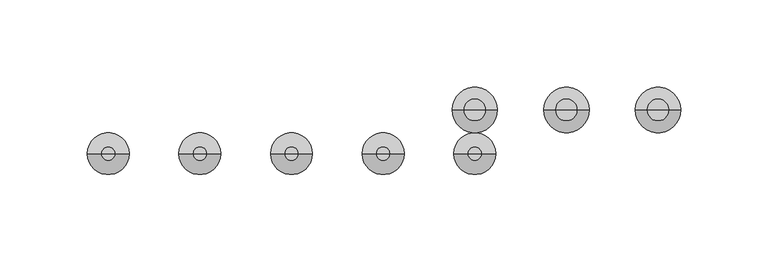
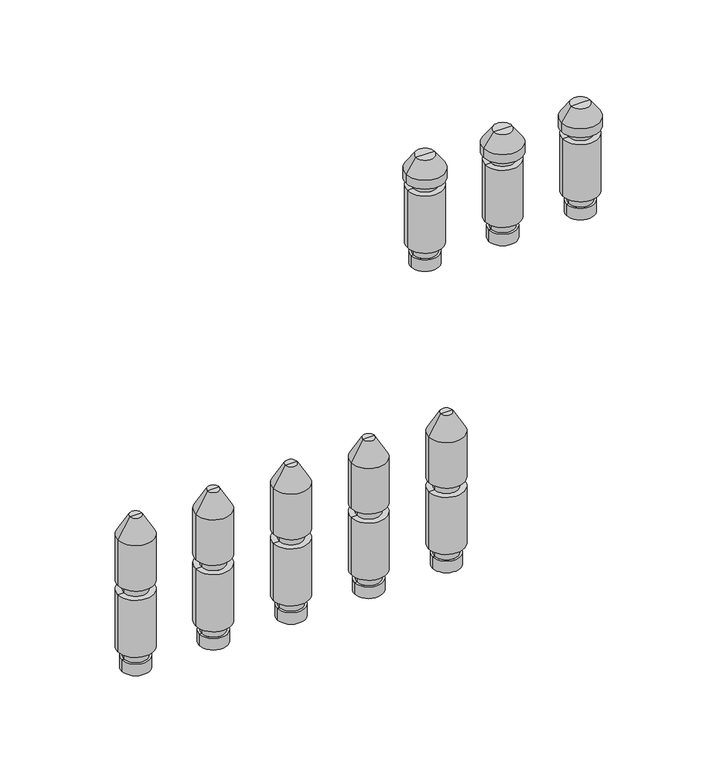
"""IFC4 building model written with IfcOpenShell, lengths in millimetres: valve geometry, PL AT_Manifold_FT-EV : 13 circuits."""

from ifc_helpers import new_model, si_unit, frame, origin, place, context, project, spatial, polyline, circle_curve, source, transform, mapped, element, save
from ifc_brep_helpers import plane_surface, cylinder_surface, revolved_surface, advanced_brep


def valve_9b29a5eb(model_context):
    return source(origin(), model_context, "Body", "AdvancedBrep", [
        advanced_brep(
        [(452.5, 25.0, 164.88733), (471.5, 25.0, 164.88733), (462.0, 25.0, 164.88733), (452.5, 25.0, 172.9630354), (471.5, 25.0, 172.9630354), (454.0, 25.0, 172.9630354), (470.0, 25.0, 172.9630354), (454.0, 25.0, 179.669747), (470.0, 25.0, 179.669747), (450.0, 25.0, 179.669747), (474.0, 25.0, 179.669747), (450.0, 25.0, 220.330253), (474.0, 25.0, 220.330253), (454.0, 25.0, 220.330253), (470.0, 25.0, 220.330253), (454.0, 25.0, 226.0474786), (470.0, 25.0, 226.0474786), (449.0, 25.0, 226.0474786), (475.0, 25.0, 226.0474786), (449.0, 25.0, 232.337955), (475.0, 25.0, 232.337955), (455.6551779, 25.0, 241.842534), (468.3448221, 25.0, 241.842534), (462.0, 25.0, 241.842534)],
        [
            (0, 1, circle_curve(frame((462.0, 25.0, 164.88733), z_axis=(0.0, 0.0, -1.0), x_axis=(1.0, 0.0, 0.0)), 9.5)),
            (1, 2),
            (2, 0),
            (1, 0, circle_curve(frame((462.0, 25.0, 164.88733), z_axis=(0.0, 0.0, -1.0), x_axis=(1.0, 0.0, 0.0)), 9.5)),
            (3, 4, circle_curve(frame((462.0, 25.0, 172.9630354), z_axis=(0.0, 0.0, -1.0), x_axis=(1.0, 0.0, 0.0)), 9.5)),
            (4, 1),
            (0, 3),
            (4, 3, circle_curve(frame((462.0, 25.0, 172.9630354), z_axis=(0.0, 0.0, -1.0), x_axis=(1.0, 0.0, 0.0)), 9.5)),
            (5, 6, circle_curve(frame((462.0, 25.0, 172.9630354), z_axis=(0.0, 0.0, -1.0), x_axis=(1.0, 0.0, 0.0)), 8.0)),
            (6, 4),
            (3, 5),
            (6, 5, circle_curve(frame((462.0, 25.0, 172.9630354), z_axis=(0.0, 0.0, -1.0), x_axis=(1.0, 0.0, 0.0)), 8.0)),
            (7, 8, circle_curve(frame((462.0, 25.0, 179.669747), z_axis=(0.0, 0.0, -1.0), x_axis=(1.0, 0.0, 0.0)), 8.0)),
            (8, 6),
            (5, 7),
            (8, 7, circle_curve(frame((462.0, 25.0, 179.669747), z_axis=(0.0, 0.0, -1.0), x_axis=(1.0, 0.0, 0.0)), 8.0)),
            (9, 10, circle_curve(frame((462.0, 25.0, 179.669747), z_axis=(0.0, 0.0, -1.0), x_axis=(1.0, 0.0, 0.0)), 12.0)),
            (10, 8),
            (7, 9),
            (10, 9, circle_curve(frame((462.0, 25.0, 179.669747), z_axis=(0.0, 0.0, -1.0), x_axis=(1.0, 0.0, 0.0)), 12.0)),
            (11, 12, circle_curve(frame((462.0, 25.0, 220.330253), z_axis=(0.0, 0.0, -1.0), x_axis=(1.0, 0.0, 0.0)), 12.0)),
            (12, 10),
            (9, 11),
            (12, 11, circle_curve(frame((462.0, 25.0, 220.330253), z_axis=(0.0, 0.0, -1.0), x_axis=(1.0, 0.0, 0.0)), 12.0)),
            (13, 14, circle_curve(frame((462.0, 25.0, 220.330253), z_axis=(0.0, 0.0, -1.0), x_axis=(1.0, 0.0, 0.0)), 8.0)),
            (14, 12),
            (11, 13),
            (14, 13, circle_curve(frame((462.0, 25.0, 220.330253), z_axis=(0.0, 0.0, -1.0), x_axis=(1.0, 0.0, 0.0)), 8.0)),
            (15, 16, circle_curve(frame((462.0, 25.0, 226.0474786), z_axis=(0.0, 0.0, -1.0), x_axis=(1.0, 0.0, 0.0)), 8.0)),
            (16, 14),
            (13, 15),
            (16, 15, circle_curve(frame((462.0, 25.0, 226.0474786), z_axis=(0.0, 0.0, -1.0), x_axis=(1.0, 0.0, 0.0)), 8.0)),
            (17, 18, circle_curve(frame((462.0, 25.0, 226.0474786), z_axis=(0.0, 0.0, -1.0), x_axis=(1.0, 0.0, 0.0)), 13.0)),
            (18, 16),
            (15, 17),
            (18, 17, circle_curve(frame((462.0, 25.0, 226.0474786), z_axis=(0.0, 0.0, -1.0), x_axis=(1.0, 0.0, 0.0)), 13.0)),
            (19, 20, circle_curve(frame((462.0, 25.0, 232.337955), z_axis=(0.0, 0.0, -1.0), x_axis=(1.0, 0.0, 0.0)), 13.0)),
            (20, 18),
            (17, 19),
            (20, 19, circle_curve(frame((462.0, 25.0, 232.337955), z_axis=(0.0, 0.0, -1.0), x_axis=(1.0, 0.0, 0.0)), 13.0)),
            (21, 22, circle_curve(frame((462.0, 25.0, 241.842534), z_axis=(0.0, 0.0, -1.0), x_axis=(1.0, 0.0, 0.0)), 6.3448221)),
            (22, 20),
            (19, 21),
            (22, 21, circle_curve(frame((462.0, 25.0, 241.842534), z_axis=(0.0, 0.0, -1.0), x_axis=(1.0, 0.0, 0.0)), 6.3448221)),
            (23, 22),
            (21, 23),
        ],
        [
            plane_surface(frame((462.0, 25.0, 164.88733), z_axis=(0.0, 0.0, -1.0), x_axis=(1.0, 0.0, 0.0))),
            cylinder_surface(frame((462.0, 25.0, 237.7026565), z_axis=(0.0, 0.0, 1.0), x_axis=(1.0, 0.0, 0.0)), 9.5),
            plane_surface(frame((462.0, 25.0, 172.9630354), z_axis=(0.0, 0.0, 1.0), x_axis=(1.0, 0.0, 0.0))),
            cylinder_surface(frame((462.0, 25.0, 237.7026565), z_axis=(0.0, 0.0, 1.0), x_axis=(1.0, 0.0, 0.0)), 8.0),
            plane_surface(frame((462.0, 25.0, 179.669747), z_axis=(0.0, 0.0, -1.0), x_axis=(1.0, 0.0, 0.0))),
            cylinder_surface(frame((462.0, 25.0, 237.7026565), z_axis=(0.0, 0.0, 1.0), x_axis=(1.0, 0.0, 0.0)), 12.0),
            plane_surface(frame((462.0, 25.0, 220.330253), z_axis=(0.0, 0.0, 1.0), x_axis=(1.0, 0.0, 0.0))),
            plane_surface(frame((462.0, 25.0, 226.0474786), z_axis=(0.0, 0.0, -1.0), x_axis=(1.0, 0.0, 0.0))),
            cylinder_surface(frame((462.0, 25.0, 237.7026565), z_axis=(0.0, 0.0, 1.0), x_axis=(1.0, 0.0, 0.0)), 13.0),
            revolved_surface(polyline([(475.0, 25.0, 232.337955), (468.3448221, 25.0, 241.842534)]), (462.0, 25.0, 237.7026565), (0.0, 0.0, 1.0)),
            plane_surface(frame((462.0, 25.0, 241.842534), z_axis=(0.0, 0.0, 1.0), x_axis=(1.0, 0.0, 0.0))),
        ],
        [
            (0, [[1, 2, 3]]),
            (0, [[4, -3, -2]]),
            (1, [[5, 6, -1, 7]]),
            (1, [[8, -7, -4, -6]]),
            (2, [[9, 10, -5, 11]]),
            (2, [[12, -11, -8, -10]]),
            (3, [[13, 14, -9, 15]]),
            (3, [[16, -15, -12, -14]]),
            (4, [[17, 18, -13, 19]]),
            (4, [[20, -19, -16, -18]]),
            (5, [[21, 22, -17, 23]]),
            (5, [[24, -23, -20, -22]]),
            (6, [[25, 26, -21, 27]]),
            (6, [[28, -27, -24, -26]]),
            (3, [[29, 30, -25, 31]]),
            (3, [[32, -31, -28, -30]]),
            (7, [[33, 34, -29, 35]]),
            (7, [[36, -35, -32, -34]]),
            (8, [[37, 38, -33, 39]]),
            (8, [[40, -39, -36, -38]]),
            (9, [[41, 42, -37, 43]]),
            (9, [[44, -43, -40, -42]]),
            (10, [[45, -41, 46]]),
            (10, [[-46, -44, -45]]),
        ],
    ),
        advanced_brep(
        [(400.0, 25.0, 164.88733), (419.0, 25.0, 164.88733), (409.5, 25.0, 164.88733), (400.0, 25.0, 172.9630354), (419.0, 25.0, 172.9630354), (401.5, 25.0, 172.9630354), (417.5, 25.0, 172.9630354), (401.5, 25.0, 179.669747), (417.5, 25.0, 179.669747), (397.5, 25.0, 179.669747), (421.5, 25.0, 179.669747), (397.5, 25.0, 220.330253), (421.5, 25.0, 220.330253), (401.5, 25.0, 220.330253), (417.5, 25.0, 220.330253), (401.5, 25.0, 226.0474786), (417.5, 25.0, 226.0474786), (396.5, 25.0, 226.0474786), (422.5, 25.0, 226.0474786), (396.5, 25.0, 232.337955), (422.5, 25.0, 232.337955), (403.1551779, 25.0, 241.842534), (415.8448221, 25.0, 241.842534), (409.5, 25.0, 241.842534)],
        [
            (0, 1, circle_curve(frame((409.5, 25.0, 164.88733), z_axis=(0.0, 0.0, -1.0), x_axis=(1.0, 0.0, 0.0)), 9.5)),
            (1, 2),
            (2, 0),
            (1, 0, circle_curve(frame((409.5, 25.0, 164.88733), z_axis=(0.0, 0.0, -1.0), x_axis=(1.0, 0.0, 0.0)), 9.5)),
            (3, 4, circle_curve(frame((409.5, 25.0, 172.9630354), z_axis=(0.0, 0.0, -1.0), x_axis=(1.0, 0.0, 0.0)), 9.5)),
            (4, 1),
            (0, 3),
            (4, 3, circle_curve(frame((409.5, 25.0, 172.9630354), z_axis=(0.0, 0.0, -1.0), x_axis=(1.0, 0.0, 0.0)), 9.5)),
            (5, 6, circle_curve(frame((409.5, 25.0, 172.9630354), z_axis=(0.0, 0.0, -1.0), x_axis=(1.0, 0.0, 0.0)), 8.0)),
            (6, 4),
            (3, 5),
            (6, 5, circle_curve(frame((409.5, 25.0, 172.9630354), z_axis=(0.0, 0.0, -1.0), x_axis=(1.0, 0.0, 0.0)), 8.0)),
            (7, 8, circle_curve(frame((409.5, 25.0, 179.669747), z_axis=(0.0, 0.0, -1.0), x_axis=(1.0, 0.0, 0.0)), 8.0)),
            (8, 6),
            (5, 7),
            (8, 7, circle_curve(frame((409.5, 25.0, 179.669747), z_axis=(0.0, 0.0, -1.0), x_axis=(1.0, 0.0, 0.0)), 8.0)),
            (9, 10, circle_curve(frame((409.5, 25.0, 179.669747), z_axis=(0.0, 0.0, -1.0), x_axis=(1.0, 0.0, 0.0)), 12.0)),
            (10, 8),
            (7, 9),
            (10, 9, circle_curve(frame((409.5, 25.0, 179.669747), z_axis=(0.0, 0.0, -1.0), x_axis=(1.0, 0.0, 0.0)), 12.0)),
            (11, 12, circle_curve(frame((409.5, 25.0, 220.330253), z_axis=(0.0, 0.0, -1.0), x_axis=(1.0, 0.0, 0.0)), 12.0)),
            (12, 10),
            (9, 11),
            (12, 11, circle_curve(frame((409.5, 25.0, 220.330253), z_axis=(0.0, 0.0, -1.0), x_axis=(1.0, 0.0, 0.0)), 12.0)),
            (13, 14, circle_curve(frame((409.5, 25.0, 220.330253), z_axis=(0.0, 0.0, -1.0), x_axis=(1.0, 0.0, 0.0)), 8.0)),
            (14, 12),
            (11, 13),
            (14, 13, circle_curve(frame((409.5, 25.0, 220.330253), z_axis=(0.0, 0.0, -1.0), x_axis=(1.0, 0.0, 0.0)), 8.0)),
            (15, 16, circle_curve(frame((409.5, 25.0, 226.0474786), z_axis=(0.0, 0.0, -1.0), x_axis=(1.0, 0.0, 0.0)), 8.0)),
            (16, 14),
            (13, 15),
            (16, 15, circle_curve(frame((409.5, 25.0, 226.0474786), z_axis=(0.0, 0.0, -1.0), x_axis=(1.0, 0.0, 0.0)), 8.0)),
            (17, 18, circle_curve(frame((409.5, 25.0, 226.0474786), z_axis=(0.0, 0.0, -1.0), x_axis=(1.0, 0.0, 0.0)), 13.0)),
            (18, 16),
            (15, 17),
            (18, 17, circle_curve(frame((409.5, 25.0, 226.0474786), z_axis=(0.0, 0.0, -1.0), x_axis=(1.0, 0.0, 0.0)), 13.0)),
            (19, 20, circle_curve(frame((409.5, 25.0, 232.337955), z_axis=(0.0, 0.0, -1.0), x_axis=(1.0, 0.0, 0.0)), 13.0)),
            (20, 18),
            (17, 19),
            (20, 19, circle_curve(frame((409.5, 25.0, 232.337955), z_axis=(0.0, 0.0, -1.0), x_axis=(1.0, 0.0, 0.0)), 13.0)),
            (21, 22, circle_curve(frame((409.5, 25.0, 241.842534), z_axis=(0.0, 0.0, -1.0), x_axis=(1.0, 0.0, 0.0)), 6.3448221)),
            (22, 20),
            (19, 21),
            (22, 21, circle_curve(frame((409.5, 25.0, 241.842534), z_axis=(0.0, 0.0, -1.0), x_axis=(1.0, 0.0, 0.0)), 6.3448221)),
            (23, 22),
            (21, 23),
        ],
        [
            plane_surface(frame((409.5, 25.0, 164.88733), z_axis=(0.0, 0.0, -1.0), x_axis=(1.0, 0.0, 0.0))),
            cylinder_surface(frame((409.5, 25.0, 237.7026565), z_axis=(0.0, 0.0, 1.0), x_axis=(1.0, 0.0, 0.0)), 9.5),
            plane_surface(frame((409.5, 25.0, 172.9630354), z_axis=(0.0, 0.0, 1.0), x_axis=(1.0, 0.0, 0.0))),
            cylinder_surface(frame((409.5, 25.0, 237.7026565), z_axis=(0.0, 0.0, 1.0), x_axis=(1.0, 0.0, 0.0)), 8.0),
            plane_surface(frame((409.5, 25.0, 179.669747), z_axis=(0.0, 0.0, -1.0), x_axis=(1.0, 0.0, 0.0))),
            cylinder_surface(frame((409.5, 25.0, 237.7026565), z_axis=(0.0, 0.0, 1.0), x_axis=(1.0, 0.0, 0.0)), 12.0),
            plane_surface(frame((409.5, 25.0, 220.330253), z_axis=(0.0, 0.0, 1.0), x_axis=(1.0, 0.0, 0.0))),
            plane_surface(frame((409.5, 25.0, 226.0474786), z_axis=(0.0, 0.0, -1.0), x_axis=(1.0, 0.0, 0.0))),
            cylinder_surface(frame((409.5, 25.0, 237.7026565), z_axis=(0.0, 0.0, 1.0), x_axis=(1.0, 0.0, 0.0)), 13.0),
            revolved_surface(polyline([(422.5, 25.0, 232.337955), (415.8448221, 25.0, 241.842534)]), (409.5, 25.0, 237.7026565), (0.0, 0.0, 1.0)),
            plane_surface(frame((409.5, 25.0, 241.842534), z_axis=(0.0, 0.0, 1.0), x_axis=(1.0, 0.0, 0.0))),
        ],
        [
            (0, [[1, 2, 3]]),
            (0, [[4, -3, -2]]),
            (1, [[5, 6, -1, 7]]),
            (1, [[8, -7, -4, -6]]),
            (2, [[9, 10, -5, 11]]),
            (2, [[12, -11, -8, -10]]),
            (3, [[13, 14, -9, 15]]),
            (3, [[16, -15, -12, -14]]),
            (4, [[17, 18, -13, 19]]),
            (4, [[20, -19, -16, -18]]),
            (5, [[21, 22, -17, 23]]),
            (5, [[24, -23, -20, -22]]),
            (6, [[25, 26, -21, 27]]),
            (6, [[28, -27, -24, -26]]),
            (3, [[29, 30, -25, 31]]),
            (3, [[32, -31, -28, -30]]),
            (7, [[33, 34, -29, 35]]),
            (7, [[36, -35, -32, -34]]),
            (8, [[37, 38, -33, 39]]),
            (8, [[40, -39, -36, -38]]),
            (9, [[41, 42, -37, 43]]),
            (9, [[44, -43, -40, -42]]),
            (10, [[45, -41, 46]]),
            (10, [[-46, -44, -45]]),
        ],
    ),
        advanced_brep(
        [(347.5, 0.0, -35.11267), (366.5, 0.0, -35.11267), (357.0, 0.0, -35.11267), (347.5, 0.0, -27.0369646), (366.5, 0.0, -27.0369646), (349.0, 0.0, -27.0369646), (365.0, 0.0, -27.0369646), (349.0, 0.0, -20.330253), (365.0, 0.0, -20.330253), (345.0, 0.0, -20.330253), (369.0, 0.0, -20.330253), (345.0, 0.0, 20.330253), (369.0, 0.0, 20.330253), (349.0, 0.0, 20.330253), (365.0, 0.0, 20.330253), (349.0, 0.0, 27.0474786), (365.0, 0.0, 27.0474786), (345.0, 0.0, 27.0474786), (369.0, 0.0, 27.0474786), (345.0, 0.0, 59.4084325), (369.0, 0.0, 59.4084325), (353.0, 0.0, 73.264839), (361.0, 0.0, 73.264839), (357.0, 0.0, 73.264839)],
        [
            (0, 1, circle_curve(frame((357.0, 0.0, -35.11267), z_axis=(0.0, 0.0, -1.0), x_axis=(1.0, 0.0, 0.0)), 9.5)),
            (1, 2),
            (2, 0),
            (1, 0, circle_curve(frame((357.0, 0.0, -35.11267), z_axis=(0.0, 0.0, -1.0), x_axis=(1.0, 0.0, 0.0)), 9.5)),
            (3, 4, circle_curve(frame((357.0, 0.0, -27.0369646), z_axis=(0.0, 0.0, -1.0), x_axis=(1.0, 0.0, 0.0)), 9.5)),
            (4, 1),
            (0, 3),
            (4, 3, circle_curve(frame((357.0, 0.0, -27.0369646), z_axis=(0.0, 0.0, -1.0), x_axis=(1.0, 0.0, 0.0)), 9.5)),
            (5, 6, circle_curve(frame((357.0, 0.0, -27.0369646), z_axis=(0.0, 0.0, -1.0), x_axis=(1.0, 0.0, 0.0)), 8.0)),
            (6, 4),
            (3, 5),
            (6, 5, circle_curve(frame((357.0, 0.0, -27.0369646), z_axis=(0.0, 0.0, -1.0), x_axis=(1.0, 0.0, 0.0)), 8.0)),
            (7, 8, circle_curve(frame((357.0, 0.0, -20.330253), z_axis=(0.0, 0.0, -1.0), x_axis=(1.0, 0.0, 0.0)), 8.0)),
            (8, 6),
            (5, 7),
            (8, 7, circle_curve(frame((357.0, 0.0, -20.330253), z_axis=(0.0, 0.0, -1.0), x_axis=(1.0, 0.0, 0.0)), 8.0)),
            (9, 10, circle_curve(frame((357.0, 0.0, -20.330253), z_axis=(0.0, 0.0, -1.0), x_axis=(1.0, 0.0, 0.0)), 12.0)),
            (10, 8),
            (7, 9),
            (10, 9, circle_curve(frame((357.0, 0.0, -20.330253), z_axis=(0.0, 0.0, -1.0), x_axis=(1.0, 0.0, 0.0)), 12.0)),
            (11, 12, circle_curve(frame((357.0, 0.0, 20.330253), z_axis=(0.0, 0.0, -1.0), x_axis=(1.0, 0.0, 0.0)), 12.0)),
            (12, 10),
            (9, 11),
            (12, 11, circle_curve(frame((357.0, 0.0, 20.330253), z_axis=(0.0, 0.0, -1.0), x_axis=(1.0, 0.0, 0.0)), 12.0)),
            (13, 14, circle_curve(frame((357.0, 0.0, 20.330253), z_axis=(0.0, 0.0, -1.0), x_axis=(1.0, 0.0, 0.0)), 8.0)),
            (14, 12),
            (11, 13),
            (14, 13, circle_curve(frame((357.0, 0.0, 20.330253), z_axis=(0.0, 0.0, -1.0), x_axis=(1.0, 0.0, 0.0)), 8.0)),
            (15, 16, circle_curve(frame((357.0, 0.0, 27.0474786), z_axis=(0.0, 0.0, -1.0), x_axis=(1.0, 0.0, 0.0)), 8.0)),
            (16, 14),
            (13, 15),
            (16, 15, circle_curve(frame((357.0, 0.0, 27.0474786), z_axis=(0.0, 0.0, -1.0), x_axis=(1.0, 0.0, 0.0)), 8.0)),
            (17, 18, circle_curve(frame((357.0, 0.0, 27.0474786), z_axis=(0.0, 0.0, -1.0), x_axis=(1.0, 0.0, 0.0)), 12.0)),
            (18, 16),
            (15, 17),
            (18, 17, circle_curve(frame((357.0, 0.0, 27.0474786), z_axis=(0.0, 0.0, -1.0), x_axis=(1.0, 0.0, 0.0)), 12.0)),
            (19, 20, circle_curve(frame((357.0, 0.0, 59.4084325), z_axis=(0.0, 0.0, -1.0), x_axis=(1.0, 0.0, 0.0)), 12.0)),
            (20, 18),
            (17, 19),
            (20, 19, circle_curve(frame((357.0, 0.0, 59.4084325), z_axis=(0.0, 0.0, -1.0), x_axis=(1.0, 0.0, 0.0)), 12.0)),
            (21, 22, circle_curve(frame((357.0, 0.0, 73.264839), z_axis=(0.0, 0.0, -1.0), x_axis=(1.0, 0.0, 0.0)), 4.0)),
            (22, 20),
            (19, 21),
            (22, 21, circle_curve(frame((357.0, 0.0, 73.264839), z_axis=(0.0, 0.0, -1.0), x_axis=(1.0, 0.0, 0.0)), 4.0)),
            (23, 22),
            (21, 23),
        ],
        [
            plane_surface(frame((357.0, 0.0, -35.11267), z_axis=(0.0, 0.0, -1.0), x_axis=(1.0, 0.0, 0.0))),
            cylinder_surface(frame((357.0, 0.0, 58.264839), z_axis=(0.0, 0.0, 1.0), x_axis=(1.0, 0.0, 0.0)), 9.5),
            plane_surface(frame((357.0, 0.0, -27.0369646), z_axis=(0.0, 0.0, 1.0), x_axis=(1.0, 0.0, 0.0))),
            cylinder_surface(frame((357.0, 0.0, 58.264839), z_axis=(0.0, 0.0, 1.0), x_axis=(1.0, 0.0, 0.0)), 8.0),
            plane_surface(frame((357.0, 0.0, -20.330253), z_axis=(0.0, 0.0, -1.0), x_axis=(1.0, 0.0, 0.0))),
            cylinder_surface(frame((357.0, 0.0, 58.264839), z_axis=(0.0, 0.0, 1.0), x_axis=(1.0, 0.0, 0.0)), 12.0),
            plane_surface(frame((357.0, 0.0, 20.330253), z_axis=(0.0, 0.0, 1.0), x_axis=(1.0, 0.0, 0.0))),
            plane_surface(frame((357.0, 0.0, 27.0474786), z_axis=(0.0, 0.0, -1.0), x_axis=(1.0, 0.0, 0.0))),
            revolved_surface(polyline([(369.0, 0.0, 59.4084325), (361.0, 0.0, 73.264839)]), (357.0, 0.0, 58.264839), (0.0, 0.0, 1.0)),
            plane_surface(frame((357.0, 0.0, 73.264839), z_axis=(0.0, 0.0, 1.0), x_axis=(1.0, 0.0, 0.0))),
        ],
        [
            (0, [[1, 2, 3]]),
            (0, [[4, -3, -2]]),
            (1, [[5, 6, -1, 7]]),
            (1, [[8, -7, -4, -6]]),
            (2, [[9, 10, -5, 11]]),
            (2, [[12, -11, -8, -10]]),
            (3, [[13, 14, -9, 15]]),
            (3, [[16, -15, -12, -14]]),
            (4, [[17, 18, -13, 19]]),
            (4, [[20, -19, -16, -18]]),
            (5, [[21, 22, -17, 23]]),
            (5, [[24, -23, -20, -22]]),
            (6, [[25, 26, -21, 27]]),
            (6, [[28, -27, -24, -26]]),
            (3, [[29, 30, -25, 31]]),
            (3, [[32, -31, -28, -30]]),
            (7, [[33, 34, -29, 35]]),
            (7, [[36, -35, -32, -34]]),
            (5, [[37, 38, -33, 39]]),
            (5, [[40, -39, -36, -38]]),
            (8, [[41, 42, -37, 43]]),
            (8, [[44, -43, -40, -42]]),
            (9, [[45, -41, 46]]),
            (9, [[-46, -44, -45]]),
        ],
    ),
        advanced_brep(
        [(347.5, 25.0, 164.88733), (366.5, 25.0, 164.88733), (357.0, 25.0, 164.88733), (347.5, 25.0, 172.9630354), (366.5, 25.0, 172.9630354), (349.0, 25.0, 172.9630354), (365.0, 25.0, 172.9630354), (349.0, 25.0, 179.669747), (365.0, 25.0, 179.669747), (345.0, 25.0, 179.669747), (369.0, 25.0, 179.669747), (345.0, 25.0, 220.330253), (369.0, 25.0, 220.330253), (349.0, 25.0, 220.330253), (365.0, 25.0, 220.330253), (349.0, 25.0, 226.0474786), (365.0, 25.0, 226.0474786), (344.0, 25.0, 226.0474786), (370.0, 25.0, 226.0474786), (344.0, 25.0, 232.337955), (370.0, 25.0, 232.337955), (350.6551779, 25.0, 241.842534), (363.3448221, 25.0, 241.842534), (357.0, 25.0, 241.842534)],
        [
            (0, 1, circle_curve(frame((357.0, 25.0, 164.88733), z_axis=(0.0, 0.0, -1.0), x_axis=(1.0, 0.0, 0.0)), 9.5)),
            (1, 2),
            (2, 0),
            (1, 0, circle_curve(frame((357.0, 25.0, 164.88733), z_axis=(0.0, 0.0, -1.0), x_axis=(1.0, 0.0, 0.0)), 9.5)),
            (3, 4, circle_curve(frame((357.0, 25.0, 172.9630354), z_axis=(0.0, 0.0, -1.0), x_axis=(1.0, 0.0, 0.0)), 9.5)),
            (4, 1),
            (0, 3),
            (4, 3, circle_curve(frame((357.0, 25.0, 172.9630354), z_axis=(0.0, 0.0, -1.0), x_axis=(1.0, 0.0, 0.0)), 9.5)),
            (5, 6, circle_curve(frame((357.0, 25.0, 172.9630354), z_axis=(0.0, 0.0, -1.0), x_axis=(1.0, 0.0, 0.0)), 8.0)),
            (6, 4),
            (3, 5),
            (6, 5, circle_curve(frame((357.0, 25.0, 172.9630354), z_axis=(0.0, 0.0, -1.0), x_axis=(1.0, 0.0, 0.0)), 8.0)),
            (7, 8, circle_curve(frame((357.0, 25.0, 179.669747), z_axis=(0.0, 0.0, -1.0), x_axis=(1.0, 0.0, 0.0)), 8.0)),
            (8, 6),
            (5, 7),
            (8, 7, circle_curve(frame((357.0, 25.0, 179.669747), z_axis=(0.0, 0.0, -1.0), x_axis=(1.0, 0.0, 0.0)), 8.0)),
            (9, 10, circle_curve(frame((357.0, 25.0, 179.669747), z_axis=(0.0, 0.0, -1.0), x_axis=(1.0, 0.0, 0.0)), 12.0)),
            (10, 8),
            (7, 9),
            (10, 9, circle_curve(frame((357.0, 25.0, 179.669747), z_axis=(0.0, 0.0, -1.0), x_axis=(1.0, 0.0, 0.0)), 12.0)),
            (11, 12, circle_curve(frame((357.0, 25.0, 220.330253), z_axis=(0.0, 0.0, -1.0), x_axis=(1.0, 0.0, 0.0)), 12.0)),
            (12, 10),
            (9, 11),
            (12, 11, circle_curve(frame((357.0, 25.0, 220.330253), z_axis=(0.0, 0.0, -1.0), x_axis=(1.0, 0.0, 0.0)), 12.0)),
            (13, 14, circle_curve(frame((357.0, 25.0, 220.330253), z_axis=(0.0, 0.0, -1.0), x_axis=(1.0, 0.0, 0.0)), 8.0)),
            (14, 12),
            (11, 13),
            (14, 13, circle_curve(frame((357.0, 25.0, 220.330253), z_axis=(0.0, 0.0, -1.0), x_axis=(1.0, 0.0, 0.0)), 8.0)),
            (15, 16, circle_curve(frame((357.0, 25.0, 226.0474786), z_axis=(0.0, 0.0, -1.0), x_axis=(1.0, 0.0, 0.0)), 8.0)),
            (16, 14),
            (13, 15),
            (16, 15, circle_curve(frame((357.0, 25.0, 226.0474786), z_axis=(0.0, 0.0, -1.0), x_axis=(1.0, 0.0, 0.0)), 8.0)),
            (17, 18, circle_curve(frame((357.0, 25.0, 226.0474786), z_axis=(0.0, 0.0, -1.0), x_axis=(1.0, 0.0, 0.0)), 13.0)),
            (18, 16),
            (15, 17),
            (18, 17, circle_curve(frame((357.0, 25.0, 226.0474786), z_axis=(0.0, 0.0, -1.0), x_axis=(1.0, 0.0, 0.0)), 13.0)),
            (19, 20, circle_curve(frame((357.0, 25.0, 232.337955), z_axis=(0.0, 0.0, -1.0), x_axis=(1.0, 0.0, 0.0)), 13.0)),
            (20, 18),
            (17, 19),
            (20, 19, circle_curve(frame((357.0, 25.0, 232.337955), z_axis=(0.0, 0.0, -1.0), x_axis=(1.0, 0.0, 0.0)), 13.0)),
            (21, 22, circle_curve(frame((357.0, 25.0, 241.842534), z_axis=(0.0, 0.0, -1.0), x_axis=(1.0, 0.0, 0.0)), 6.3448221)),
            (22, 20),
            (19, 21),
            (22, 21, circle_curve(frame((357.0, 25.0, 241.842534), z_axis=(0.0, 0.0, -1.0), x_axis=(1.0, 0.0, 0.0)), 6.3448221)),
            (23, 22),
            (21, 23),
        ],
        [
            plane_surface(frame((357.0, 25.0, 164.88733), z_axis=(0.0, 0.0, -1.0), x_axis=(1.0, 0.0, 0.0))),
            cylinder_surface(frame((357.0, 25.0, 237.7026565), z_axis=(0.0, 0.0, 1.0), x_axis=(1.0, 0.0, 0.0)), 9.5),
            plane_surface(frame((357.0, 25.0, 172.9630354), z_axis=(0.0, 0.0, 1.0), x_axis=(1.0, 0.0, 0.0))),
            cylinder_surface(frame((357.0, 25.0, 237.7026565), z_axis=(0.0, 0.0, 1.0), x_axis=(1.0, 0.0, 0.0)), 8.0),
            plane_surface(frame((357.0, 25.0, 179.669747), z_axis=(0.0, 0.0, -1.0), x_axis=(1.0, 0.0, 0.0))),
            cylinder_surface(frame((357.0, 25.0, 237.7026565), z_axis=(0.0, 0.0, 1.0), x_axis=(1.0, 0.0, 0.0)), 12.0),
            plane_surface(frame((357.0, 25.0, 220.330253), z_axis=(0.0, 0.0, 1.0), x_axis=(1.0, 0.0, 0.0))),
            plane_surface(frame((357.0, 25.0, 226.0474786), z_axis=(0.0, 0.0, -1.0), x_axis=(1.0, 0.0, 0.0))),
            cylinder_surface(frame((357.0, 25.0, 237.7026565), z_axis=(0.0, 0.0, 1.0), x_axis=(1.0, 0.0, 0.0)), 13.0),
            revolved_surface(polyline([(370.0, 25.0, 232.337955), (363.3448221, 25.0, 241.842534)]), (357.0, 25.0, 237.7026565), (0.0, 0.0, 1.0)),
            plane_surface(frame((357.0, 25.0, 241.842534), z_axis=(0.0, 0.0, 1.0), x_axis=(1.0, 0.0, 0.0))),
        ],
        [
            (0, [[1, 2, 3]]),
            (0, [[4, -3, -2]]),
            (1, [[5, 6, -1, 7]]),
            (1, [[8, -7, -4, -6]]),
            (2, [[9, 10, -5, 11]]),
            (2, [[12, -11, -8, -10]]),
            (3, [[13, 14, -9, 15]]),
            (3, [[16, -15, -12, -14]]),
            (4, [[17, 18, -13, 19]]),
            (4, [[20, -19, -16, -18]]),
            (5, [[21, 22, -17, 23]]),
            (5, [[24, -23, -20, -22]]),
            (6, [[25, 26, -21, 27]]),
            (6, [[28, -27, -24, -26]]),
            (3, [[29, 30, -25, 31]]),
            (3, [[32, -31, -28, -30]]),
            (7, [[33, 34, -29, 35]]),
            (7, [[36, -35, -32, -34]]),
            (8, [[37, 38, -33, 39]]),
            (8, [[40, -39, -36, -38]]),
            (9, [[41, 42, -37, 43]]),
            (9, [[44, -43, -40, -42]]),
            (10, [[45, -41, 46]]),
            (10, [[-46, -44, -45]]),
        ],
    ),
        advanced_brep(
        [(295.0, 0.0, -35.11267), (314.0, 0.0, -35.11267), (304.5, 0.0, -35.11267), (295.0, 0.0, -27.0369646), (314.0, 0.0, -27.0369646), (296.5, 0.0, -27.0369646), (312.5, 0.0, -27.0369646), (296.5, 0.0, -20.330253), (312.5, 0.0, -20.330253), (292.5, 0.0, -20.330253), (316.5, 0.0, -20.330253), (292.5, 0.0, 20.330253), (316.5, 0.0, 20.330253), (296.5, 0.0, 20.330253), (312.5, 0.0, 20.330253), (296.5, 0.0, 27.0474786), (312.5, 0.0, 27.0474786), (292.5, 0.0, 27.0474786), (316.5, 0.0, 27.0474786), (292.5, 0.0, 59.4084325), (316.5, 0.0, 59.4084325), (300.5, 0.0, 73.264839), (308.5, 0.0, 73.264839), (304.5, 0.0, 73.264839)],
        [
            (0, 1, circle_curve(frame((304.5, 0.0, -35.11267), z_axis=(0.0, 0.0, -1.0), x_axis=(1.0, 0.0, 0.0)), 9.5)),
            (1, 2),
            (2, 0),
            (1, 0, circle_curve(frame((304.5, 0.0, -35.11267), z_axis=(0.0, 0.0, -1.0), x_axis=(1.0, 0.0, 0.0)), 9.5)),
            (3, 4, circle_curve(frame((304.5, 0.0, -27.0369646), z_axis=(0.0, 0.0, -1.0), x_axis=(1.0, 0.0, 0.0)), 9.5)),
            (4, 1),
            (0, 3),
            (4, 3, circle_curve(frame((304.5, 0.0, -27.0369646), z_axis=(0.0, 0.0, -1.0), x_axis=(1.0, 0.0, 0.0)), 9.5)),
            (5, 6, circle_curve(frame((304.5, 0.0, -27.0369646), z_axis=(0.0, 0.0, -1.0), x_axis=(1.0, 0.0, 0.0)), 8.0)),
            (6, 4),
            (3, 5),
            (6, 5, circle_curve(frame((304.5, 0.0, -27.0369646), z_axis=(0.0, 0.0, -1.0), x_axis=(1.0, 0.0, 0.0)), 8.0)),
            (7, 8, circle_curve(frame((304.5, 0.0, -20.330253), z_axis=(0.0, 0.0, -1.0), x_axis=(1.0, 0.0, 0.0)), 8.0)),
            (8, 6),
            (5, 7),
            (8, 7, circle_curve(frame((304.5, 0.0, -20.330253), z_axis=(0.0, 0.0, -1.0), x_axis=(1.0, 0.0, 0.0)), 8.0)),
            (9, 10, circle_curve(frame((304.5, 0.0, -20.330253), z_axis=(0.0, 0.0, -1.0), x_axis=(1.0, 0.0, 0.0)), 12.0)),
            (10, 8),
            (7, 9),
            (10, 9, circle_curve(frame((304.5, 0.0, -20.330253), z_axis=(0.0, 0.0, -1.0), x_axis=(1.0, 0.0, 0.0)), 12.0)),
            (11, 12, circle_curve(frame((304.5, 0.0, 20.330253), z_axis=(0.0, 0.0, -1.0), x_axis=(1.0, 0.0, 0.0)), 12.0)),
            (12, 10),
            (9, 11),
            (12, 11, circle_curve(frame((304.5, 0.0, 20.330253), z_axis=(0.0, 0.0, -1.0), x_axis=(1.0, 0.0, 0.0)), 12.0)),
            (13, 14, circle_curve(frame((304.5, 0.0, 20.330253), z_axis=(0.0, 0.0, -1.0), x_axis=(1.0, 0.0, 0.0)), 8.0)),
            (14, 12),
            (11, 13),
            (14, 13, circle_curve(frame((304.5, 0.0, 20.330253), z_axis=(0.0, 0.0, -1.0), x_axis=(1.0, 0.0, 0.0)), 8.0)),
            (15, 16, circle_curve(frame((304.5, 0.0, 27.0474786), z_axis=(0.0, 0.0, -1.0), x_axis=(1.0, 0.0, 0.0)), 8.0)),
            (16, 14),
            (13, 15),
            (16, 15, circle_curve(frame((304.5, 0.0, 27.0474786), z_axis=(0.0, 0.0, -1.0), x_axis=(1.0, 0.0, 0.0)), 8.0)),
            (17, 18, circle_curve(frame((304.5, 0.0, 27.0474786), z_axis=(0.0, 0.0, -1.0), x_axis=(1.0, 0.0, 0.0)), 12.0)),
            (18, 16),
            (15, 17),
            (18, 17, circle_curve(frame((304.5, 0.0, 27.0474786), z_axis=(0.0, 0.0, -1.0), x_axis=(1.0, 0.0, 0.0)), 12.0)),
            (19, 20, circle_curve(frame((304.5, 0.0, 59.4084325), z_axis=(0.0, 0.0, -1.0), x_axis=(1.0, 0.0, 0.0)), 12.0)),
            (20, 18),
            (17, 19),
            (20, 19, circle_curve(frame((304.5, 0.0, 59.4084325), z_axis=(0.0, 0.0, -1.0), x_axis=(1.0, 0.0, 0.0)), 12.0)),
            (21, 22, circle_curve(frame((304.5, 0.0, 73.264839), z_axis=(0.0, 0.0, -1.0), x_axis=(1.0, 0.0, 0.0)), 4.0)),
            (22, 20),
            (19, 21),
            (22, 21, circle_curve(frame((304.5, 0.0, 73.264839), z_axis=(0.0, 0.0, -1.0), x_axis=(1.0, 0.0, 0.0)), 4.0)),
            (23, 22),
            (21, 23),
        ],
        [
            plane_surface(frame((304.5, 0.0, -35.11267), z_axis=(0.0, 0.0, -1.0), x_axis=(1.0, 0.0, 0.0))),
            cylinder_surface(frame((304.5, 0.0, 58.264839), z_axis=(0.0, 0.0, 1.0), x_axis=(1.0, 0.0, 0.0)), 9.5),
            plane_surface(frame((304.5, 0.0, -27.0369646), z_axis=(0.0, 0.0, 1.0), x_axis=(1.0, 0.0, 0.0))),
            cylinder_surface(frame((304.5, 0.0, 58.264839), z_axis=(0.0, 0.0, 1.0), x_axis=(1.0, 0.0, 0.0)), 8.0),
            plane_surface(frame((304.5, 0.0, -20.330253), z_axis=(0.0, 0.0, -1.0), x_axis=(1.0, 0.0, 0.0))),
            cylinder_surface(frame((304.5, 0.0, 58.264839), z_axis=(0.0, 0.0, 1.0), x_axis=(1.0, 0.0, 0.0)), 12.0),
            plane_surface(frame((304.5, 0.0, 20.330253), z_axis=(0.0, 0.0, 1.0), x_axis=(1.0, 0.0, 0.0))),
            plane_surface(frame((304.5, 0.0, 27.0474786), z_axis=(0.0, 0.0, -1.0), x_axis=(1.0, 0.0, 0.0))),
            revolved_surface(polyline([(316.5, 0.0, 59.4084325), (308.5, 0.0, 73.264839)]), (304.5, 0.0, 58.264839), (0.0, 0.0, 1.0)),
            plane_surface(frame((304.5, 0.0, 73.264839), z_axis=(0.0, 0.0, 1.0), x_axis=(1.0, 0.0, 0.0))),
        ],
        [
            (0, [[1, 2, 3]]),
            (0, [[4, -3, -2]]),
            (1, [[5, 6, -1, 7]]),
            (1, [[8, -7, -4, -6]]),
            (2, [[9, 10, -5, 11]]),
            (2, [[12, -11, -8, -10]]),
            (3, [[13, 14, -9, 15]]),
            (3, [[16, -15, -12, -14]]),
            (4, [[17, 18, -13, 19]]),
            (4, [[20, -19, -16, -18]]),
            (5, [[21, 22, -17, 23]]),
            (5, [[24, -23, -20, -22]]),
            (6, [[25, 26, -21, 27]]),
            (6, [[28, -27, -24, -26]]),
            (3, [[29, 30, -25, 31]]),
            (3, [[32, -31, -28, -30]]),
            (7, [[33, 34, -29, 35]]),
            (7, [[36, -35, -32, -34]]),
            (5, [[37, 38, -33, 39]]),
            (5, [[40, -39, -36, -38]]),
            (8, [[41, 42, -37, 43]]),
            (8, [[44, -43, -40, -42]]),
            (9, [[45, -41, 46]]),
            (9, [[-46, -44, -45]]),
        ],
    ),
        advanced_brep(
        [(242.5, 0.0, -35.11267), (261.5, 0.0, -35.11267), (252.0, 0.0, -35.11267), (242.5, 0.0, -27.0369646), (261.5, 0.0, -27.0369646), (244.0, 0.0, -27.0369646), (260.0, 0.0, -27.0369646), (244.0, 0.0, -20.330253), (260.0, 0.0, -20.330253), (240.0, 0.0, -20.330253), (264.0, 0.0, -20.330253), (240.0, 0.0, 20.330253), (264.0, 0.0, 20.330253), (244.0, 0.0, 20.330253), (260.0, 0.0, 20.330253), (244.0, 0.0, 27.0474786), (260.0, 0.0, 27.0474786), (240.0, 0.0, 27.0474786), (264.0, 0.0, 27.0474786), (240.0, 0.0, 59.4084325), (264.0, 0.0, 59.4084325), (248.0, 0.0, 73.264839), (256.0, 0.0, 73.264839), (252.0, 0.0, 73.264839)],
        [
            (0, 1, circle_curve(frame((252.0, 0.0, -35.11267), z_axis=(0.0, 0.0, -1.0), x_axis=(1.0, 0.0, 0.0)), 9.5)),
            (1, 2),
            (2, 0),
            (1, 0, circle_curve(frame((252.0, 0.0, -35.11267), z_axis=(0.0, 0.0, -1.0), x_axis=(1.0, 0.0, 0.0)), 9.5)),
            (3, 4, circle_curve(frame((252.0, 0.0, -27.0369646), z_axis=(0.0, 0.0, -1.0), x_axis=(1.0, 0.0, 0.0)), 9.5)),
            (4, 1),
            (0, 3),
            (4, 3, circle_curve(frame((252.0, 0.0, -27.0369646), z_axis=(0.0, 0.0, -1.0), x_axis=(1.0, 0.0, 0.0)), 9.5)),
            (5, 6, circle_curve(frame((252.0, 0.0, -27.0369646), z_axis=(0.0, 0.0, -1.0), x_axis=(1.0, 0.0, 0.0)), 8.0)),
            (6, 4),
            (3, 5),
            (6, 5, circle_curve(frame((252.0, 0.0, -27.0369646), z_axis=(0.0, 0.0, -1.0), x_axis=(1.0, 0.0, 0.0)), 8.0)),
            (7, 8, circle_curve(frame((252.0, 0.0, -20.330253), z_axis=(0.0, 0.0, -1.0), x_axis=(1.0, 0.0, 0.0)), 8.0)),
            (8, 6),
            (5, 7),
            (8, 7, circle_curve(frame((252.0, 0.0, -20.330253), z_axis=(0.0, 0.0, -1.0), x_axis=(1.0, 0.0, 0.0)), 8.0)),
            (9, 10, circle_curve(frame((252.0, 0.0, -20.330253), z_axis=(0.0, 0.0, -1.0), x_axis=(1.0, 0.0, 0.0)), 12.0)),
            (10, 8),
            (7, 9),
            (10, 9, circle_curve(frame((252.0, 0.0, -20.330253), z_axis=(0.0, 0.0, -1.0), x_axis=(1.0, 0.0, 0.0)), 12.0)),
            (11, 12, circle_curve(frame((252.0, 0.0, 20.330253), z_axis=(0.0, 0.0, -1.0), x_axis=(1.0, 0.0, 0.0)), 12.0)),
            (12, 10),
            (9, 11),
            (12, 11, circle_curve(frame((252.0, 0.0, 20.330253), z_axis=(0.0, 0.0, -1.0), x_axis=(1.0, 0.0, 0.0)), 12.0)),
            (13, 14, circle_curve(frame((252.0, 0.0, 20.330253), z_axis=(0.0, 0.0, -1.0), x_axis=(1.0, 0.0, 0.0)), 8.0)),
            (14, 12),
            (11, 13),
            (14, 13, circle_curve(frame((252.0, 0.0, 20.330253), z_axis=(0.0, 0.0, -1.0), x_axis=(1.0, 0.0, 0.0)), 8.0)),
            (15, 16, circle_curve(frame((252.0, 0.0, 27.0474786), z_axis=(0.0, 0.0, -1.0), x_axis=(1.0, 0.0, 0.0)), 8.0)),
            (16, 14),
            (13, 15),
            (16, 15, circle_curve(frame((252.0, 0.0, 27.0474786), z_axis=(0.0, 0.0, -1.0), x_axis=(1.0, 0.0, 0.0)), 8.0)),
            (17, 18, circle_curve(frame((252.0, 0.0, 27.0474786), z_axis=(0.0, 0.0, -1.0), x_axis=(1.0, 0.0, 0.0)), 12.0)),
            (18, 16),
            (15, 17),
            (18, 17, circle_curve(frame((252.0, 0.0, 27.0474786), z_axis=(0.0, 0.0, -1.0), x_axis=(1.0, 0.0, 0.0)), 12.0)),
            (19, 20, circle_curve(frame((252.0, 0.0, 59.4084325), z_axis=(0.0, 0.0, -1.0), x_axis=(1.0, 0.0, 0.0)), 12.0)),
            (20, 18),
            (17, 19),
            (20, 19, circle_curve(frame((252.0, 0.0, 59.4084325), z_axis=(0.0, 0.0, -1.0), x_axis=(1.0, 0.0, 0.0)), 12.0)),
            (21, 22, circle_curve(frame((252.0, 0.0, 73.264839), z_axis=(0.0, 0.0, -1.0), x_axis=(1.0, 0.0, 0.0)), 4.0)),
            (22, 20),
            (19, 21),
            (22, 21, circle_curve(frame((252.0, 0.0, 73.264839), z_axis=(0.0, 0.0, -1.0), x_axis=(1.0, 0.0, 0.0)), 4.0)),
            (23, 22),
            (21, 23),
        ],
        [
            plane_surface(frame((252.0, 0.0, -35.11267), z_axis=(0.0, 0.0, -1.0), x_axis=(1.0, 0.0, 0.0))),
            cylinder_surface(frame((252.0, 0.0, 58.264839), z_axis=(0.0, 0.0, 1.0), x_axis=(1.0, 0.0, 0.0)), 9.5),
            plane_surface(frame((252.0, 0.0, -27.0369646), z_axis=(0.0, 0.0, 1.0), x_axis=(1.0, 0.0, 0.0))),
            cylinder_surface(frame((252.0, 0.0, 58.264839), z_axis=(0.0, 0.0, 1.0), x_axis=(1.0, 0.0, 0.0)), 8.0),
            plane_surface(frame((252.0, 0.0, -20.330253), z_axis=(0.0, 0.0, -1.0), x_axis=(1.0, 0.0, 0.0))),
            cylinder_surface(frame((252.0, 0.0, 58.264839), z_axis=(0.0, 0.0, 1.0), x_axis=(1.0, 0.0, 0.0)), 12.0),
            plane_surface(frame((252.0, 0.0, 20.330253), z_axis=(0.0, 0.0, 1.0), x_axis=(1.0, 0.0, 0.0))),
            plane_surface(frame((252.0, 0.0, 27.0474786), z_axis=(0.0, 0.0, -1.0), x_axis=(1.0, 0.0, 0.0))),
            revolved_surface(polyline([(264.0, 0.0, 59.4084325), (256.0, 0.0, 73.264839)]), (252.0, 0.0, 58.264839), (0.0, 0.0, 1.0)),
            plane_surface(frame((252.0, 0.0, 73.264839), z_axis=(0.0, 0.0, 1.0), x_axis=(1.0, 0.0, 0.0))),
        ],
        [
            (0, [[1, 2, 3]]),
            (0, [[4, -3, -2]]),
            (1, [[5, 6, -1, 7]]),
            (1, [[8, -7, -4, -6]]),
            (2, [[9, 10, -5, 11]]),
            (2, [[12, -11, -8, -10]]),
            (3, [[13, 14, -9, 15]]),
            (3, [[16, -15, -12, -14]]),
            (4, [[17, 18, -13, 19]]),
            (4, [[20, -19, -16, -18]]),
            (5, [[21, 22, -17, 23]]),
            (5, [[24, -23, -20, -22]]),
            (6, [[25, 26, -21, 27]]),
            (6, [[28, -27, -24, -26]]),
            (3, [[29, 30, -25, 31]]),
            (3, [[32, -31, -28, -30]]),
            (7, [[33, 34, -29, 35]]),
            (7, [[36, -35, -32, -34]]),
            (5, [[37, 38, -33, 39]]),
            (5, [[40, -39, -36, -38]]),
            (8, [[41, 42, -37, 43]]),
            (8, [[44, -43, -40, -42]]),
            (9, [[45, -41, 46]]),
            (9, [[-46, -44, -45]]),
        ],
    ),
        advanced_brep(
        [(190.0, 0.0, -35.11267), (209.0, 0.0, -35.11267), (199.5, 0.0, -35.11267), (190.0, 0.0, -27.0369646), (209.0, 0.0, -27.0369646), (191.5, 0.0, -27.0369646), (207.5, 0.0, -27.0369646), (191.5, 0.0, -20.330253), (207.5, 0.0, -20.330253), (187.5, 0.0, -20.330253), (211.5, 0.0, -20.330253), (187.5, 0.0, 20.330253), (211.5, 0.0, 20.330253), (191.5, 0.0, 20.330253), (207.5, 0.0, 20.330253), (191.5, 0.0, 27.0474786), (207.5, 0.0, 27.0474786), (187.5, 0.0, 27.0474786), (211.5, 0.0, 27.0474786), (187.5, 0.0, 59.4084325), (211.5, 0.0, 59.4084325), (195.5, 0.0, 73.264839), (203.5, 0.0, 73.264839), (199.5, 0.0, 73.264839)],
        [
            (0, 1, circle_curve(frame((199.5, 0.0, -35.11267), z_axis=(0.0, 0.0, -1.0), x_axis=(1.0, 0.0, 0.0)), 9.5)),
            (1, 2),
            (2, 0),
            (1, 0, circle_curve(frame((199.5, 0.0, -35.11267), z_axis=(0.0, 0.0, -1.0), x_axis=(1.0, 0.0, 0.0)), 9.5)),
            (3, 4, circle_curve(frame((199.5, 0.0, -27.0369646), z_axis=(0.0, 0.0, -1.0), x_axis=(1.0, 0.0, 0.0)), 9.5)),
            (4, 1),
            (0, 3),
            (4, 3, circle_curve(frame((199.5, 0.0, -27.0369646), z_axis=(0.0, 0.0, -1.0), x_axis=(1.0, 0.0, 0.0)), 9.5)),
            (5, 6, circle_curve(frame((199.5, 0.0, -27.0369646), z_axis=(0.0, 0.0, -1.0), x_axis=(1.0, 0.0, 0.0)), 8.0)),
            (6, 4),
            (3, 5),
            (6, 5, circle_curve(frame((199.5, 0.0, -27.0369646), z_axis=(0.0, 0.0, -1.0), x_axis=(1.0, 0.0, 0.0)), 8.0)),
            (7, 8, circle_curve(frame((199.5, 0.0, -20.330253), z_axis=(0.0, 0.0, -1.0), x_axis=(1.0, 0.0, 0.0)), 8.0)),
            (8, 6),
            (5, 7),
            (8, 7, circle_curve(frame((199.5, 0.0, -20.330253), z_axis=(0.0, 0.0, -1.0), x_axis=(1.0, 0.0, 0.0)), 8.0)),
            (9, 10, circle_curve(frame((199.5, 0.0, -20.330253), z_axis=(0.0, 0.0, -1.0), x_axis=(1.0, 0.0, 0.0)), 12.0)),
            (10, 8),
            (7, 9),
            (10, 9, circle_curve(frame((199.5, 0.0, -20.330253), z_axis=(0.0, 0.0, -1.0), x_axis=(1.0, 0.0, 0.0)), 12.0)),
            (11, 12, circle_curve(frame((199.5, 0.0, 20.330253), z_axis=(0.0, 0.0, -1.0), x_axis=(1.0, 0.0, 0.0)), 12.0)),
            (12, 10),
            (9, 11),
            (12, 11, circle_curve(frame((199.5, 0.0, 20.330253), z_axis=(0.0, 0.0, -1.0), x_axis=(1.0, 0.0, 0.0)), 12.0)),
            (13, 14, circle_curve(frame((199.5, 0.0, 20.330253), z_axis=(0.0, 0.0, -1.0), x_axis=(1.0, 0.0, 0.0)), 8.0)),
            (14, 12),
            (11, 13),
            (14, 13, circle_curve(frame((199.5, 0.0, 20.330253), z_axis=(0.0, 0.0, -1.0), x_axis=(1.0, 0.0, 0.0)), 8.0)),
            (15, 16, circle_curve(frame((199.5, 0.0, 27.0474786), z_axis=(0.0, 0.0, -1.0), x_axis=(1.0, 0.0, 0.0)), 8.0)),
            (16, 14),
            (13, 15),
            (16, 15, circle_curve(frame((199.5, 0.0, 27.0474786), z_axis=(0.0, 0.0, -1.0), x_axis=(1.0, 0.0, 0.0)), 8.0)),
            (17, 18, circle_curve(frame((199.5, 0.0, 27.0474786), z_axis=(0.0, 0.0, -1.0), x_axis=(1.0, 0.0, 0.0)), 12.0)),
            (18, 16),
            (15, 17),
            (18, 17, circle_curve(frame((199.5, 0.0, 27.0474786), z_axis=(0.0, 0.0, -1.0), x_axis=(1.0, 0.0, 0.0)), 12.0)),
            (19, 20, circle_curve(frame((199.5, 0.0, 59.4084325), z_axis=(0.0, 0.0, -1.0), x_axis=(1.0, 0.0, 0.0)), 12.0)),
            (20, 18),
            (17, 19),
            (20, 19, circle_curve(frame((199.5, 0.0, 59.4084325), z_axis=(0.0, 0.0, -1.0), x_axis=(1.0, 0.0, 0.0)), 12.0)),
            (21, 22, circle_curve(frame((199.5, 0.0, 73.264839), z_axis=(0.0, 0.0, -1.0), x_axis=(1.0, 0.0, 0.0)), 4.0)),
            (22, 20),
            (19, 21),
            (22, 21, circle_curve(frame((199.5, 0.0, 73.264839), z_axis=(0.0, 0.0, -1.0), x_axis=(1.0, 0.0, 0.0)), 4.0)),
            (23, 22),
            (21, 23),
        ],
        [
            plane_surface(frame((199.5, 0.0, -35.11267), z_axis=(0.0, 0.0, -1.0), x_axis=(1.0, 0.0, 0.0))),
            cylinder_surface(frame((199.5, 0.0, 58.264839), z_axis=(0.0, 0.0, 1.0), x_axis=(1.0, 0.0, 0.0)), 9.5),
            plane_surface(frame((199.5, 0.0, -27.0369646), z_axis=(0.0, 0.0, 1.0), x_axis=(1.0, 0.0, 0.0))),
            cylinder_surface(frame((199.5, 0.0, 58.264839), z_axis=(0.0, 0.0, 1.0), x_axis=(1.0, 0.0, 0.0)), 8.0),
            plane_surface(frame((199.5, 0.0, -20.330253), z_axis=(0.0, 0.0, -1.0), x_axis=(1.0, 0.0, 0.0))),
            cylinder_surface(frame((199.5, 0.0, 58.264839), z_axis=(0.0, 0.0, 1.0), x_axis=(1.0, 0.0, 0.0)), 12.0),
            plane_surface(frame((199.5, 0.0, 20.330253), z_axis=(0.0, 0.0, 1.0), x_axis=(1.0, 0.0, 0.0))),
            plane_surface(frame((199.5, 0.0, 27.0474786), z_axis=(0.0, 0.0, -1.0), x_axis=(1.0, 0.0, 0.0))),
            revolved_surface(polyline([(211.5, 0.0, 59.4084325), (203.5, 0.0, 73.264839)]), (199.5, 0.0, 58.264839), (0.0, 0.0, 1.0)),
            plane_surface(frame((199.5, 0.0, 73.264839), z_axis=(0.0, 0.0, 1.0), x_axis=(1.0, 0.0, 0.0))),
        ],
        [
            (0, [[1, 2, 3]]),
            (0, [[4, -3, -2]]),
            (1, [[5, 6, -1, 7]]),
            (1, [[8, -7, -4, -6]]),
            (2, [[9, 10, -5, 11]]),
            (2, [[12, -11, -8, -10]]),
            (3, [[13, 14, -9, 15]]),
            (3, [[16, -15, -12, -14]]),
            (4, [[17, 18, -13, 19]]),
            (4, [[20, -19, -16, -18]]),
            (5, [[21, 22, -17, 23]]),
            (5, [[24, -23, -20, -22]]),
            (6, [[25, 26, -21, 27]]),
            (6, [[28, -27, -24, -26]]),
            (3, [[29, 30, -25, 31]]),
            (3, [[32, -31, -28, -30]]),
            (7, [[33, 34, -29, 35]]),
            (7, [[36, -35, -32, -34]]),
            (5, [[37, 38, -33, 39]]),
            (5, [[40, -39, -36, -38]]),
            (8, [[41, 42, -37, 43]]),
            (8, [[44, -43, -40, -42]]),
            (9, [[45, -41, 46]]),
            (9, [[-46, -44, -45]]),
        ],
    ),
        advanced_brep(
        [(137.5, 0.0, -35.11267), (156.5, 0.0, -35.11267), (147.0, 0.0, -35.11267), (137.5, 0.0, -27.0369646), (156.5, 0.0, -27.0369646), (139.0, 0.0, -27.0369646), (155.0, 0.0, -27.0369646), (139.0, 0.0, -20.330253), (155.0, 0.0, -20.330253), (135.0, 0.0, -20.330253), (159.0, 0.0, -20.330253), (135.0, 0.0, 20.330253), (159.0, 0.0, 20.330253), (139.0, 0.0, 20.330253), (155.0, 0.0, 20.330253), (139.0, 0.0, 27.0474786), (155.0, 0.0, 27.0474786), (135.0, 0.0, 27.0474786), (159.0, 0.0, 27.0474786), (135.0, 0.0, 59.4084325), (159.0, 0.0, 59.4084325), (143.0, 0.0, 73.264839), (151.0, 0.0, 73.264839), (147.0, 0.0, 73.264839)],
        [
            (0, 1, circle_curve(frame((147.0, 0.0, -35.11267), z_axis=(0.0, 0.0, -1.0), x_axis=(1.0, 0.0, 0.0)), 9.5)),
            (1, 2),
            (2, 0),
            (1, 0, circle_curve(frame((147.0, 0.0, -35.11267), z_axis=(0.0, 0.0, -1.0), x_axis=(1.0, 0.0, 0.0)), 9.5)),
            (3, 4, circle_curve(frame((147.0, 0.0, -27.0369646), z_axis=(0.0, 0.0, -1.0), x_axis=(1.0, 0.0, 0.0)), 9.5)),
            (4, 1),
            (0, 3),
            (4, 3, circle_curve(frame((147.0, 0.0, -27.0369646), z_axis=(0.0, 0.0, -1.0), x_axis=(1.0, 0.0, 0.0)), 9.5)),
            (5, 6, circle_curve(frame((147.0, 0.0, -27.0369646), z_axis=(0.0, 0.0, -1.0), x_axis=(1.0, 0.0, 0.0)), 8.0)),
            (6, 4),
            (3, 5),
            (6, 5, circle_curve(frame((147.0, 0.0, -27.0369646), z_axis=(0.0, 0.0, -1.0), x_axis=(1.0, 0.0, 0.0)), 8.0)),
            (7, 8, circle_curve(frame((147.0, 0.0, -20.330253), z_axis=(0.0, 0.0, -1.0), x_axis=(1.0, 0.0, 0.0)), 8.0)),
            (8, 6),
            (5, 7),
            (8, 7, circle_curve(frame((147.0, 0.0, -20.330253), z_axis=(0.0, 0.0, -1.0), x_axis=(1.0, 0.0, 0.0)), 8.0)),
            (9, 10, circle_curve(frame((147.0, 0.0, -20.330253), z_axis=(0.0, 0.0, -1.0), x_axis=(1.0, 0.0, 0.0)), 12.0)),
            (10, 8),
            (7, 9),
            (10, 9, circle_curve(frame((147.0, 0.0, -20.330253), z_axis=(0.0, 0.0, -1.0), x_axis=(1.0, 0.0, 0.0)), 12.0)),
            (11, 12, circle_curve(frame((147.0, 0.0, 20.330253), z_axis=(0.0, 0.0, -1.0), x_axis=(1.0, 0.0, 0.0)), 12.0)),
            (12, 10),
            (9, 11),
            (12, 11, circle_curve(frame((147.0, 0.0, 20.330253), z_axis=(0.0, 0.0, -1.0), x_axis=(1.0, 0.0, 0.0)), 12.0)),
            (13, 14, circle_curve(frame((147.0, 0.0, 20.330253), z_axis=(0.0, 0.0, -1.0), x_axis=(1.0, 0.0, 0.0)), 8.0)),
            (14, 12),
            (11, 13),
            (14, 13, circle_curve(frame((147.0, 0.0, 20.330253), z_axis=(0.0, 0.0, -1.0), x_axis=(1.0, 0.0, 0.0)), 8.0)),
            (15, 16, circle_curve(frame((147.0, 0.0, 27.0474786), z_axis=(0.0, 0.0, -1.0), x_axis=(1.0, 0.0, 0.0)), 8.0)),
            (16, 14),
            (13, 15),
            (16, 15, circle_curve(frame((147.0, 0.0, 27.0474786), z_axis=(0.0, 0.0, -1.0), x_axis=(1.0, 0.0, 0.0)), 8.0)),
            (17, 18, circle_curve(frame((147.0, 0.0, 27.0474786), z_axis=(0.0, 0.0, -1.0), x_axis=(1.0, 0.0, 0.0)), 12.0)),
            (18, 16),
            (15, 17),
            (18, 17, circle_curve(frame((147.0, 0.0, 27.0474786), z_axis=(0.0, 0.0, -1.0), x_axis=(1.0, 0.0, 0.0)), 12.0)),
            (19, 20, circle_curve(frame((147.0, 0.0, 59.4084325), z_axis=(0.0, 0.0, -1.0), x_axis=(1.0, 0.0, 0.0)), 12.0)),
            (20, 18),
            (17, 19),
            (20, 19, circle_curve(frame((147.0, 0.0, 59.4084325), z_axis=(0.0, 0.0, -1.0), x_axis=(1.0, 0.0, 0.0)), 12.0)),
            (21, 22, circle_curve(frame((147.0, 0.0, 73.264839), z_axis=(0.0, 0.0, -1.0), x_axis=(1.0, 0.0, 0.0)), 4.0)),
            (22, 20),
            (19, 21),
            (22, 21, circle_curve(frame((147.0, 0.0, 73.264839), z_axis=(0.0, 0.0, -1.0), x_axis=(1.0, 0.0, 0.0)), 4.0)),
            (23, 22),
            (21, 23),
        ],
        [
            plane_surface(frame((147.0, 0.0, -35.11267), z_axis=(0.0, 0.0, -1.0), x_axis=(1.0, 0.0, 0.0))),
            cylinder_surface(frame((147.0, 0.0, 58.264839), z_axis=(0.0, 0.0, 1.0), x_axis=(1.0, 0.0, 0.0)), 9.5),
            plane_surface(frame((147.0, 0.0, -27.0369646), z_axis=(0.0, 0.0, 1.0), x_axis=(1.0, 0.0, 0.0))),
            cylinder_surface(frame((147.0, 0.0, 58.264839), z_axis=(0.0, 0.0, 1.0), x_axis=(1.0, 0.0, 0.0)), 8.0),
            plane_surface(frame((147.0, 0.0, -20.330253), z_axis=(0.0, 0.0, -1.0), x_axis=(1.0, 0.0, 0.0))),
            cylinder_surface(frame((147.0, 0.0, 58.264839), z_axis=(0.0, 0.0, 1.0), x_axis=(1.0, 0.0, 0.0)), 12.0),
            plane_surface(frame((147.0, 0.0, 20.330253), z_axis=(0.0, 0.0, 1.0), x_axis=(1.0, 0.0, 0.0))),
            plane_surface(frame((147.0, 0.0, 27.0474786), z_axis=(0.0, 0.0, -1.0), x_axis=(1.0, 0.0, 0.0))),
            revolved_surface(polyline([(159.0, 0.0, 59.4084325), (151.0, 0.0, 73.264839)]), (147.0, 0.0, 58.264839), (0.0, 0.0, 1.0)),
            plane_surface(frame((147.0, 0.0, 73.264839), z_axis=(0.0, 0.0, 1.0), x_axis=(1.0, 0.0, 0.0))),
        ],
        [
            (0, [[1, 2, 3]]),
            (0, [[4, -3, -2]]),
            (1, [[5, 6, -1, 7]]),
            (1, [[8, -7, -4, -6]]),
            (2, [[9, 10, -5, 11]]),
            (2, [[12, -11, -8, -10]]),
            (3, [[13, 14, -9, 15]]),
            (3, [[16, -15, -12, -14]]),
            (4, [[17, 18, -13, 19]]),
            (4, [[20, -19, -16, -18]]),
            (5, [[21, 22, -17, 23]]),
            (5, [[24, -23, -20, -22]]),
            (6, [[25, 26, -21, 27]]),
            (6, [[28, -27, -24, -26]]),
            (3, [[29, 30, -25, 31]]),
            (3, [[32, -31, -28, -30]]),
            (7, [[33, 34, -29, 35]]),
            (7, [[36, -35, -32, -34]]),
            (5, [[37, 38, -33, 39]]),
            (5, [[40, -39, -36, -38]]),
            (8, [[41, 42, -37, 43]]),
            (8, [[44, -43, -40, -42]]),
            (9, [[45, -41, 46]]),
            (9, [[-46, -44, -45]]),
        ],
    ),
    ])


if __name__ == "__main__":
    model = new_model("IFC4")
    model_context = context("Model", 3, world=origin())
    ifc_project = project(units=[si_unit("LENGTHUNIT", "METRE", prefix="MILLI")], contexts=[model_context])
    site = spatial("IfcSite", under=ifc_project)
    building = spatial("IfcBuilding", under=site)
    placement = place(None, origin())
    valve_shape = valve_9b29a5eb(model_context)
    element("IfcValve", 1, ObjectType="PL AT_Manifold_FT-EV : 13 circuits", at=placement, inside=building, context=model_context, shape_type="MappedRepresentation", body=[
        mapped(valve_shape, transform((0.0, 0.0, 0.0), x_axis=(1.0, 0.0, 0.0), y_axis=(0.0, 1.0, 0.0), z_axis=(0.0, 0.0, 1.0))),
    ])
    save(model, "model.ifc")
